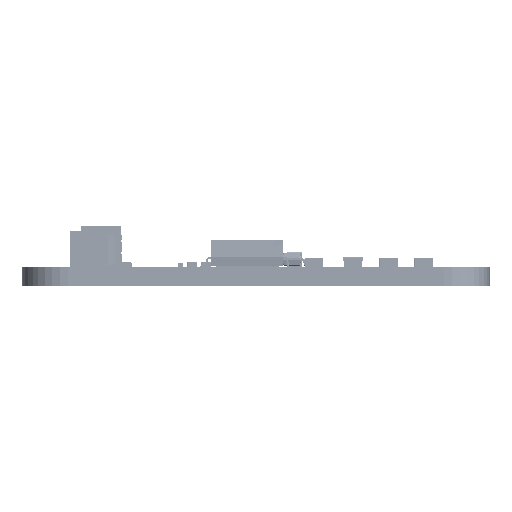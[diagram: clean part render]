
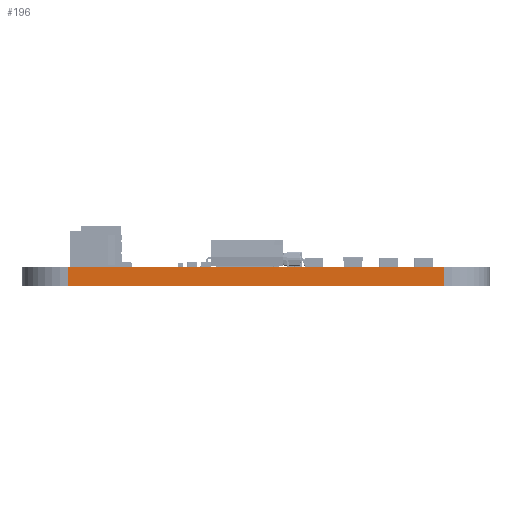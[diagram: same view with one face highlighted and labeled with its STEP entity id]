
A CAD part, front view. The second image highlights one B-rep face of the part: STEP entity #196.
In plain terms, the highlighted planar face has unit normal (0, -1, 0).
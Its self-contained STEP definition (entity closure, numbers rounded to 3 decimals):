
#169 = VERTEX_POINT('',#170);
#170 = CARTESIAN_POINT('',(131.212,-167.727,    1.6));
#177 = EDGE_CURVE('',#178,#169,#180,.T.);
#178 = VERTEX_POINT('',#179);
#179 = CARTESIAN_POINT('',(131.212,-167.727,0.));
#180 = LINE('',#181,#182);
#181 = CARTESIAN_POINT('',(131.212,-167.727,0.));
#182 = VECTOR('',#183,1.);
#183 = DIRECTION('',(0.,0.,1.));
#196 = ADVANCED_FACE('',(#197),#222,.T.);
#197 = FACE_BOUND('',#198,.T.);
#198 = EDGE_LOOP('',(#199,#200,#208,#216));
#199 = ORIENTED_EDGE('',*,*,#177,.T.);
#200 = ORIENTED_EDGE('',*,*,#201,.T.);
#201 = EDGE_CURVE('',#169,#202,#204,.T.);
#202 = VERTEX_POINT('',#203);
#203 = CARTESIAN_POINT('',(99.014,-167.727,    1.6));
#204 = LINE('',#205,#206);
#205 = CARTESIAN_POINT('',(131.212,-167.727,    1.6));
#206 = VECTOR('',#207,1.);
#207 = DIRECTION('',(-1.,0.,0.));
#208 = ORIENTED_EDGE('',*,*,#209,.F.);
#209 = EDGE_CURVE('',#210,#202,#212,.T.);
#210 = VERTEX_POINT('',#211);
#211 = CARTESIAN_POINT('',(99.014,-167.727,0.));
#212 = LINE('',#213,#214);
#213 = CARTESIAN_POINT('',(99.014,-167.727,0.));
#214 = VECTOR('',#215,1.);
#215 = DIRECTION('',(0.,0.,1.));
#216 = ORIENTED_EDGE('',*,*,#217,.F.);
#217 = EDGE_CURVE('',#178,#210,#218,.T.);
#218 = LINE('',#219,#220);
#219 = CARTESIAN_POINT('',(131.212,-167.727,0.));
#220 = VECTOR('',#221,1.);
#221 = DIRECTION('',(-1.,0.,0.));
#222 = PLANE('',#223);
#223 = AXIS2_PLACEMENT_3D('',#224,#225,#226);
#224 = CARTESIAN_POINT('',(131.212,-167.727,0.));
#225 = DIRECTION('',(0.,-1.,0.));
#226 = DIRECTION('',(-1.,0.,0.));
